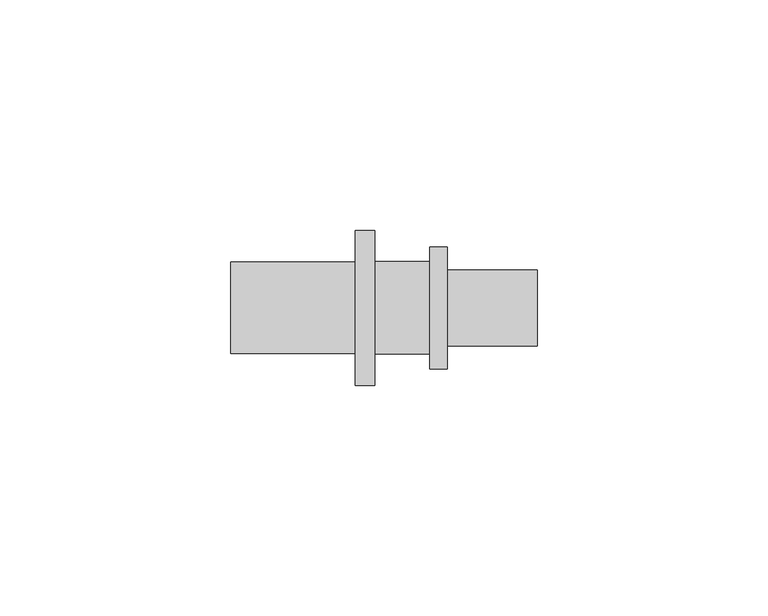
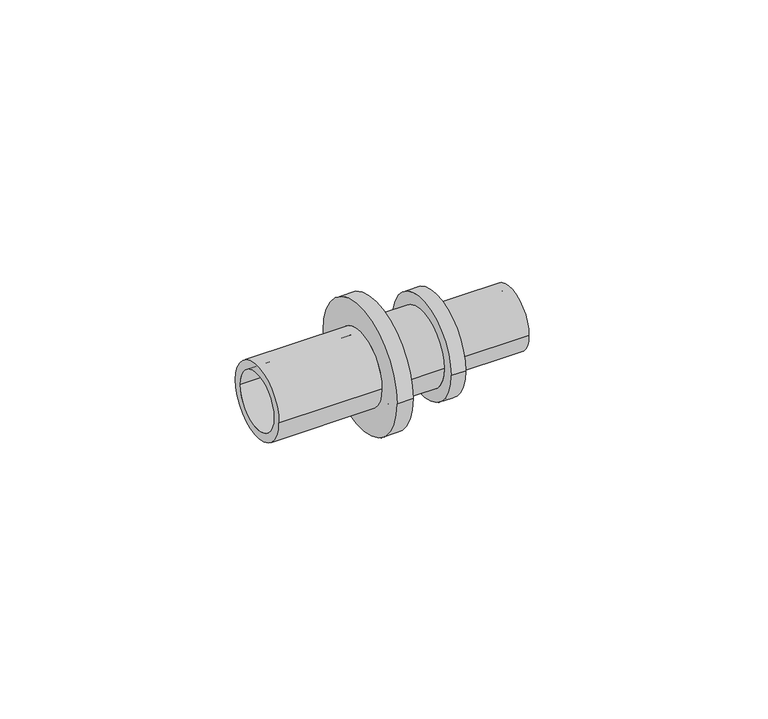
"""IFC4 building model written with IfcOpenShell, lengths in millimetres: pipe fitting geometry, RAUTITAN_Transition_RX+ : RTI RX+ Tr DE."""

from ifc_helpers import new_model, si_unit, frame, origin, place, context, project, spatial, polyline, circle_curve, source, transform, mapped, element, save
from ifc_brep_helpers import plane_surface, cylinder_surface, revolved_surface, advanced_brep


def pipe_fitting_75713d5f(model_context):
    return source(origin(), model_context, "Body", "AdvancedBrep", [
        advanced_brep(
        [(-37.2, 7.6, 0.0), (-37.2, -7.6, 0.0), (-10.2, -7.6, 0.0), (-10.2, 7.6, 0.0), (6.0, 10.05, 0.0), (6.0, -10.05, 0.0), (-6.0, -10.05, 0.0), (-6.0, 10.05, 0.0), (9.8, 13.25, 0.0), (9.8, -13.25, 0.0), (6.0, -13.25, 0.0), (6.0, 13.25, 0.0), (29.3, 8.25, 0.0), (29.3, -8.25, 0.0), (9.8, -8.25, 0.0), (9.8, 8.25, 0.0), (-8.85, 6.25, 0.0), (-8.85, -6.25, 0.0), (29.3, -6.25, 0.0), (29.3, 6.25, 0.0), (-6.0, 16.8, 0.0), (-6.0, -16.8, 0.0), (-10.2, 9.9, 0.0), (-10.2, -9.9, 0.0), (-37.2, -9.9, 0.0), (-37.2, 9.9, 0.0), (-10.2, -16.8, 0.0), (-10.2, 16.8, 0.0)],
        [
            (0, 1, circle_curve(frame((-37.2, 0.0, 0.0), z_axis=(-1.0, 0.0, 0.0), x_axis=(0.0, -1.0, 0.0)), 7.6)),
            (1, 2),
            (2, 3, circle_curve(frame((-10.2, 0.0, 0.0), z_axis=(1.0, 0.0, 0.0), x_axis=(0.0, -1.0, 0.0)), 7.6)),
            (3, 0),
            (4, 5, circle_curve(frame((6.0, 0.0, 0.0), z_axis=(-1.0, 0.0, 0.0), x_axis=(0.0, -1.0, 0.0)), 10.05)),
            (5, 6),
            (6, 7, circle_curve(frame((-6.0, 0.0, 0.0), z_axis=(1.0, 0.0, 0.0), x_axis=(0.0, -1.0, 0.0)), 10.05)),
            (7, 4),
            (8, 9, circle_curve(frame((9.8, 0.0, 0.0), z_axis=(-1.0, 0.0, 0.0), x_axis=(0.0, -1.0, 0.0)), 13.25)),
            (9, 10),
            (10, 11, circle_curve(frame((6.0, 0.0, 0.0), z_axis=(1.0, 0.0, 0.0), x_axis=(0.0, -1.0, 0.0)), 13.25)),
            (11, 8),
            (12, 13, circle_curve(frame((29.3, 0.0, 0.0), z_axis=(-1.0, 0.0, 0.0), x_axis=(0.0, -1.0, 0.0)), 8.25)),
            (13, 14),
            (14, 15, circle_curve(frame((9.8, 0.0, 0.0), z_axis=(1.0, 0.0, 0.0), x_axis=(0.0, -1.0, 0.0)), 8.25)),
            (15, 12),
            (16, 17, circle_curve(frame((-8.85, 0.0, 0.0), z_axis=(-1.0, 0.0, 0.0), x_axis=(0.0, -1.0, 0.0)), 6.25)),
            (17, 18),
            (18, 19, circle_curve(frame((29.3, 0.0, 0.0), z_axis=(1.0, 0.0, 0.0), x_axis=(0.0, -1.0, 0.0)), 6.25)),
            (19, 16),
            (2, 17),
            (16, 3),
            (1, 0, circle_curve(frame((-37.2, 0.0, 0.0), z_axis=(-1.0, 0.0, 0.0), x_axis=(0.0, 1.0, 0.0)), 7.6)),
            (3, 2, circle_curve(frame((-10.2, 0.0, 0.0), z_axis=(1.0, 0.0, 0.0), x_axis=(0.0, 1.0, 0.0)), 7.6)),
            (20, 21, circle_curve(frame((-6.0, 0.0, 0.0), z_axis=(1.0, 0.0, 0.0), x_axis=(0.0, 1.0, 0.0)), 16.8)),
            (21, 20, circle_curve(frame((-6.0, 0.0, 0.0), z_axis=(1.0, 0.0, 0.0), x_axis=(0.0, -1.0, 0.0)), 16.8)),
            (6, 7, circle_curve(frame((-6.0, 0.0, 0.0), z_axis=(-1.0, 0.0, 0.0), x_axis=(0.0, 1.0, 0.0)), 10.05)),
            (5, 4, circle_curve(frame((6.0, 0.0, 0.0), z_axis=(-1.0, 0.0, 0.0), x_axis=(0.0, 1.0, 0.0)), 10.05)),
            (10, 11, circle_curve(frame((6.0, 0.0, 0.0), z_axis=(-1.0, 0.0, 0.0), x_axis=(0.0, 1.0, 0.0)), 13.25)),
            (9, 8, circle_curve(frame((9.8, 0.0, 0.0), z_axis=(-1.0, 0.0, 0.0), x_axis=(0.0, 1.0, 0.0)), 13.25)),
            (14, 15, circle_curve(frame((9.8, 0.0, 0.0), z_axis=(-1.0, 0.0, 0.0), x_axis=(0.0, 1.0, 0.0)), 8.25)),
            (13, 12, circle_curve(frame((29.3, 0.0, 0.0), z_axis=(-1.0, 0.0, 0.0), x_axis=(0.0, 1.0, 0.0)), 8.25)),
            (18, 19, circle_curve(frame((29.3, 0.0, 0.0), z_axis=(-1.0, 0.0, 0.0), x_axis=(0.0, 1.0, 0.0)), 6.25)),
            (17, 16, circle_curve(frame((-8.85, 0.0, 0.0), z_axis=(-1.0, 0.0, 0.0), x_axis=(0.0, 1.0, 0.0)), 6.25)),
            (22, 23, circle_curve(frame((-10.2, 0.0, 0.0), z_axis=(-1.0, 0.0, 0.0), x_axis=(0.0, -1.0, 0.0)), 9.9)),
            (23, 24),
            (24, 25, circle_curve(frame((-37.2, 0.0, 0.0), z_axis=(1.0, 0.0, 0.0), x_axis=(0.0, -1.0, 0.0)), 9.9)),
            (25, 22),
            (21, 26),
            (26, 27, circle_curve(frame((-10.2, 0.0, 0.0), z_axis=(1.0, 0.0, 0.0), x_axis=(0.0, -1.0, 0.0)), 16.8)),
            (27, 20),
            (24, 25, circle_curve(frame((-37.2, 0.0, 0.0), z_axis=(-1.0, 0.0, 0.0), x_axis=(0.0, 1.0, 0.0)), 9.9)),
            (23, 22, circle_curve(frame((-10.2, 0.0, 0.0), z_axis=(-1.0, 0.0, 0.0), x_axis=(0.0, 1.0, 0.0)), 9.9)),
            (26, 27, circle_curve(frame((-10.2, 0.0, 0.0), z_axis=(-1.0, 0.0, 0.0), x_axis=(0.0, 1.0, 0.0)), 16.8)),
        ],
        [
            revolved_surface(polyline([(-10.2, -7.6, 0.0), (-37.2, -7.6, 0.0)]), (0.0, 0.0, 0.0), (1.0, 0.0, 0.0)),
            cylinder_surface(frame((0.0, 0.0, 0.0), z_axis=(1.0, 0.0, 0.0), x_axis=(0.0, -1.0, 0.0)), 10.05),
            cylinder_surface(frame((0.0, 0.0, 0.0), z_axis=(1.0, 0.0, 0.0), x_axis=(0.0, -1.0, 0.0)), 13.25),
            cylinder_surface(frame((0.0, 0.0, 0.0), z_axis=(1.0, 0.0, 0.0), x_axis=(0.0, -1.0, 0.0)), 8.25),
            revolved_surface(polyline([(29.3, -6.25, 0.0), (-8.85, -6.25, 0.0)]), (0.0, 0.0, 0.0), (1.0, 0.0, 0.0)),
            revolved_surface(polyline([(-8.85, -6.25, 0.0), (-10.2, -7.6, 0.0)]), (0.0, 0.0, 0.0), (1.0, 0.0, 0.0)),
            revolved_surface(polyline([(-10.2, 7.6, 0.0), (-37.2, 7.6, 0.0)]), (0.0, 0.0, 0.0), (1.0, 0.0, 0.0)),
            plane_surface(frame((-6.0, 0.0, 0.0), z_axis=(1.0, 0.0, 0.0), x_axis=(0.0, 1.0, 0.0))),
            cylinder_surface(frame((0.0, 0.0, 0.0), z_axis=(1.0, 0.0, 0.0), x_axis=(0.0, 1.0, 0.0)), 10.05),
            plane_surface(frame((6.0, 0.0, 0.0), z_axis=(-1.0, 0.0, 0.0), x_axis=(0.0, 1.0, 0.0))),
            cylinder_surface(frame((0.0, 0.0, 0.0), z_axis=(1.0, 0.0, 0.0), x_axis=(0.0, 1.0, 0.0)), 13.25),
            plane_surface(frame((9.8, 0.0, 0.0), z_axis=(1.0, 0.0, 0.0), x_axis=(0.0, 1.0, 0.0))),
            cylinder_surface(frame((0.0, 0.0, 0.0), z_axis=(1.0, 0.0, 0.0), x_axis=(0.0, 1.0, 0.0)), 8.25),
            plane_surface(frame((29.3, 0.0, 0.0), z_axis=(1.0, 0.0, 0.0), x_axis=(0.0, 1.0, 0.0))),
            revolved_surface(polyline([(29.3, 6.25, 0.0), (-8.85, 6.25, 0.0)]), (0.0, 0.0, 0.0), (1.0, 0.0, 0.0)),
            revolved_surface(polyline([(-8.85, 6.25, 0.0), (-10.2, 7.6, 0.0)]), (0.0, 0.0, 0.0), (1.0, 0.0, 0.0)),
            cylinder_surface(frame((0.0, 0.0, 0.0), z_axis=(1.0, 0.0, 0.0), x_axis=(0.0, -1.0, 0.0)), 9.9),
            cylinder_surface(frame((0.0, 0.0, 0.0), z_axis=(1.0, 0.0, 0.0), x_axis=(0.0, -1.0, 0.0)), 16.8),
            plane_surface(frame((-37.2, 0.0, 0.0), z_axis=(-1.0, 0.0, 0.0), x_axis=(0.0, 1.0, 0.0))),
            cylinder_surface(frame((0.0, 0.0, 0.0), z_axis=(1.0, 0.0, 0.0), x_axis=(0.0, 1.0, 0.0)), 9.9),
            plane_surface(frame((-10.2, 0.0, 0.0), z_axis=(-1.0, 0.0, 0.0), x_axis=(0.0, 1.0, 0.0))),
            cylinder_surface(frame((0.0, 0.0, 0.0), z_axis=(1.0, 0.0, 0.0), x_axis=(0.0, 1.0, 0.0)), 16.8),
        ],
        [
            (0, [[1, 2, 3, 4]]),
            (1, [[5, 6, 7, 8]]),
            (2, [[9, 10, 11, 12]]),
            (3, [[13, 14, 15, 16]]),
            (4, [[17, 18, 19, 20]]),
            (5, [[-3, 21, -17, 22]]),
            (6, [[23, -4, 24, -2]]),
            (7, [[25, 26], [27, -7]]),
            (8, [[28, -8, -27, -6]]),
            (9, [[29, -11], [-28, -5]]),
            (10, [[30, -12, -29, -10]]),
            (11, [[-30, -9], [31, -15]]),
            (12, [[32, -16, -31, -14]]),
            (13, [[-32, -13], [33, -19]]),
            (14, [[34, -20, -33, -18]]),
            (15, [[-24, -22, -34, -21]]),
            (16, [[35, 36, 37, 38]]),
            (17, [[-26, 39, 40, 41]]),
            (18, [[42, -37], [-23, -1]]),
            (19, [[43, -38, -42, -36]]),
            (20, [[44, -40], [-43, -35]]),
            (21, [[-25, -41, -44, -39]]),
        ],
    ),
    ])


if __name__ == "__main__":
    model = new_model("IFC4")
    model_context = context("Model", 3, world=origin())
    ifc_project = project(units=[si_unit("LENGTHUNIT", "METRE", prefix="MILLI")], contexts=[model_context])
    site = spatial("IfcSite", under=ifc_project)
    building = spatial("IfcBuilding", under=site)
    placement = place(None, origin())
    pipe_fitting_shape = pipe_fitting_75713d5f(model_context)
    element("IfcPipeFitting", 1, ObjectType="RAUTITAN_Transition_RX+ : RTI RX+ Tr DE", at=placement, inside=building, context=model_context, shape_type="MappedRepresentation", body=[
        mapped(pipe_fitting_shape, transform((0.0, 0.0, 0.0), x_axis=(1.0, 0.0, 0.0), y_axis=(0.0, 1.0, 0.0), z_axis=(0.0, 0.0, 1.0))),
    ])
    save(model, "model.ifc")
